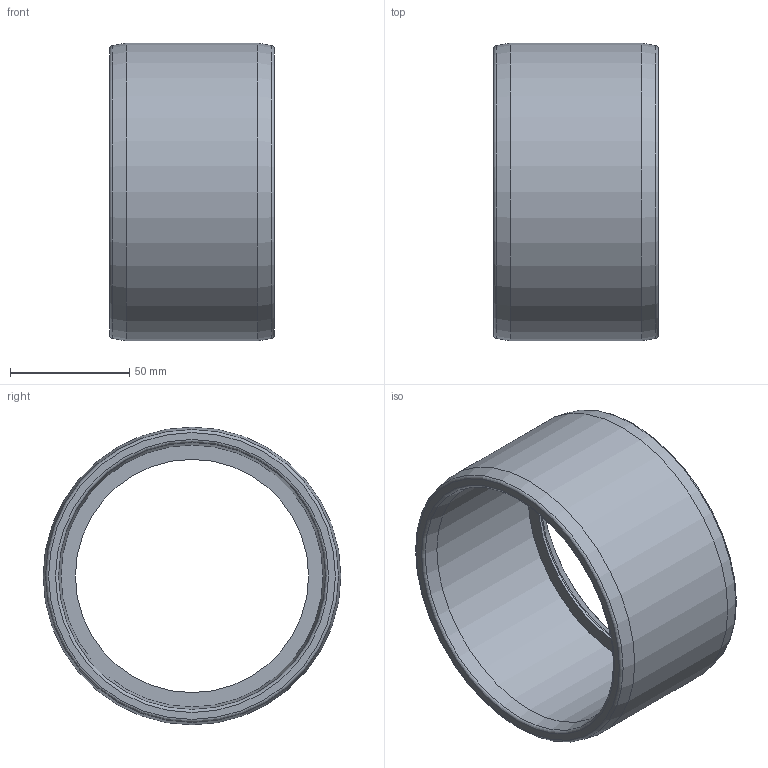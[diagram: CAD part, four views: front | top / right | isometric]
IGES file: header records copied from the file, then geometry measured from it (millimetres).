
Global section: file name: 050900125110.ipt; native system: Autodesk Inventor 2015; preprocessor: unknown; author: KIM; date: 20171207.165133; units: millimetre
Bounding box: 69 x 125 x 125 mm (x, y, z)
Volume: 196169.8 mm3; surface area: 57382.2 mm2
Topology: 1 solids, 1 shells, 15 faces, 43 edges, 31 vertices
Faces by surface type: revolution 9, plane 3, cone 2, cylinder 1
Full cylindrical faces by diameter (mm): 125 x1
